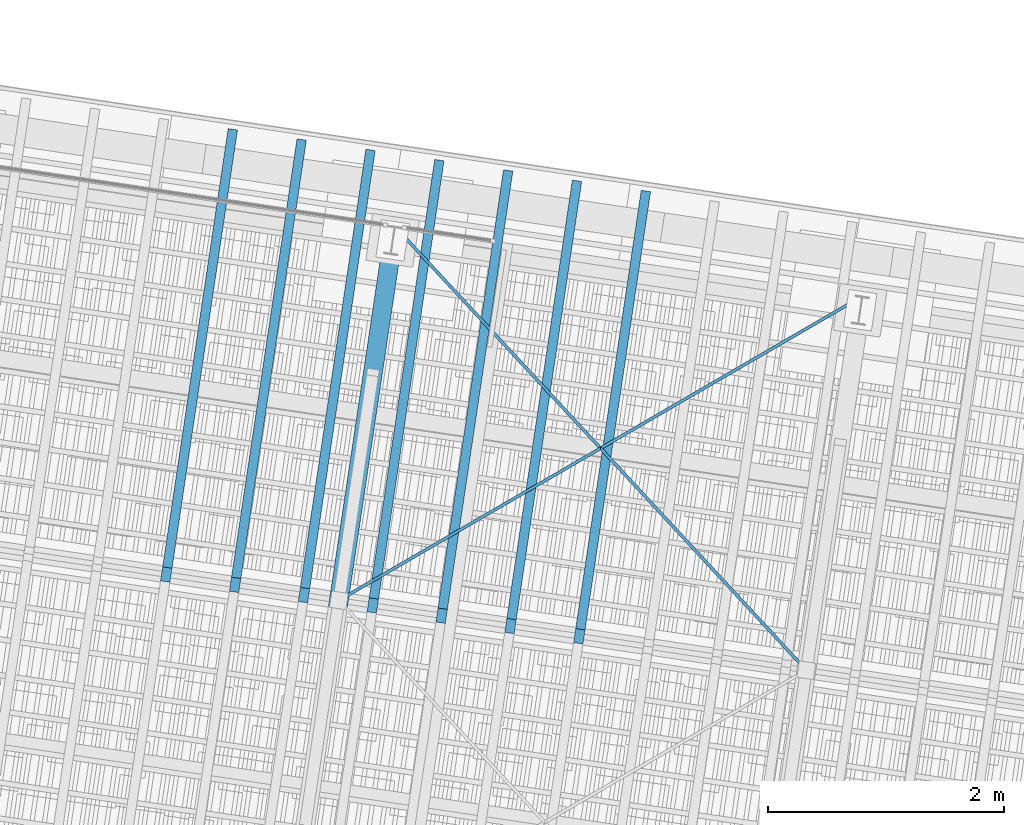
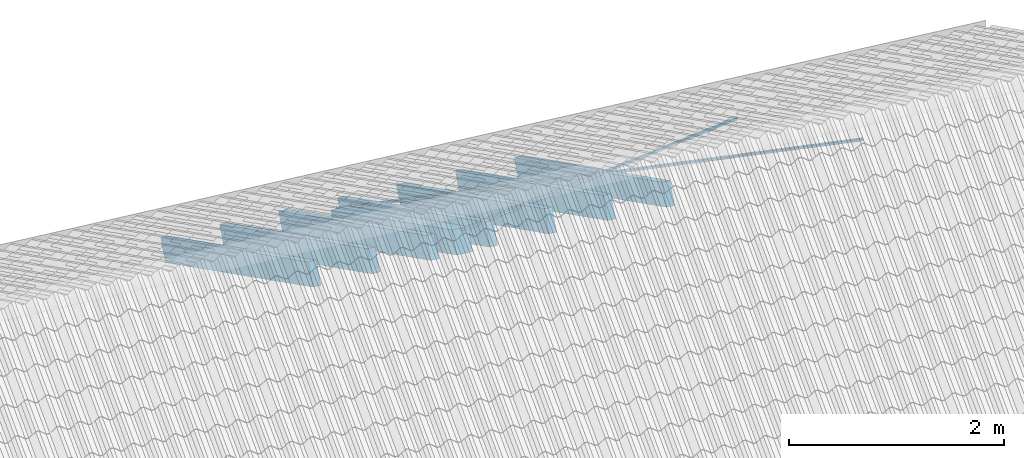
# One storey, part 92 of 128: 10 members, 1 element without a shape of its own.
"""IFC4 building model written with IfcOpenShell, lengths in metres."""

from ifc_helpers import new_model, si_unit, direction, frame, origin_with_axes, place, context, subcontext, project, spatial, rectangle, extrude, material, material_profile, profile_set, profile_usage, type_object, element, aggregate, save


model = new_model("IFC4")

# Units and contexts
model_context = context("Model", 3, precision=1e-05, world=origin_with_axes(), true_north=direction((0.0, 1.0)))
body_context = subcontext(model_context, "Body", "Model", "MODEL_VIEW")
ifc_project = project(units=[si_unit("VOLUMEUNIT", "CUBIC_METRE"), si_unit("LENGTHUNIT", "METRE"), si_unit("AREAUNIT", "SQUARE_METRE")], contexts=[model_context])

# Site, building, storey
site_placement = place(None, origin_with_axes())
site = spatial("IfcSite", under=ifc_project, at=site_placement, Name="Lares · Rua das Mercês · artigo 4771")
building_placement = place(site_placement, frame((15.0, 9.7, 13.9), z_axis=(0.0, 0.0, 1.0), x_axis=(0.989015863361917, -0.147809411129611, 0.0)))
building = spatial("IfcBuilding", under=site, at=building_placement, Name="Casa Sobreposta")
storey_placement = place(building_placement, origin_with_axes())
storey = spatial("IfcBuildingStorey", under=building, at=storey_placement, Name="00 · Habitação e estacionamento", Elevation=13.9)

# Roof, members
ifc_material_1 = material(Name="Madeira / Bauholz", Category="wood")
roof_placement = place(storey_placement, origin_with_axes())
roof = element("IfcRoof", 1, at=roof_placement, inside=storey, material=ifc_material_1, Name="Cobertura de telha · duas águas 30 graus", PredefinedType="GABLE_ROOF")
ifc_material_profile_1 = material_profile(ifc_material_1, rectangle(XDim=0.16, YDim=0.24))
ifc_profile_set_1 = profile_set([ifc_material_profile_1], Name="TIMBER0.160x0.240")
ifc_profile_usage_1 = profile_usage(ifc_profile_set_1)
member_type_1 = type_object("IfcMemberType", Name="TIMBER0.160x0.240 / timber", PredefinedType="NOTDEFINED", material=ifc_profile_set_1)
member_1_placement = place(roof_placement, frame((24.0, 3.2, 5.0225208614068), z_axis=(0.0, 0.866025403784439, -0.5), x_axis=(1.0, 0.0, 0.0)))
member_1 = element("IfcMember", 2, at=member_1_placement, type_object=member_type_1, material=ifc_profile_usage_1, Name="Tesoura · perna", context=body_context, shape_type="SweptSolid", body=[
    extrude(rectangle(XDim=0.16, YDim=0.24), origin_with_axes(), (0.0, 0.0, 1.0), 3.5564776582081),
])
ifc_material_profile_2 = material_profile(ifc_material_1, rectangle(XDim=0.08, YDim=0.24))
ifc_profile_set_2 = profile_set([ifc_material_profile_2], Name="TIMBER0.080x0.240")
ifc_profile_usage_2 = profile_usage(ifc_profile_set_2)
member_type_2 = type_object("IfcMemberType", Name="TIMBER0.080x0.240 / timber", PredefinedType="NOTDEFINED", material=ifc_profile_set_2)
member_2_placement = place(roof_placement, frame((22.5232075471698, 3.2, 5.0285208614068), z_axis=(0.0, 0.866025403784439, -0.5), x_axis=(1.0, 0.0, 0.0)))
member_2 = element("IfcMember", 3, at=member_2_placement, type_object=member_type_2, material=ifc_profile_usage_2, Name="Cobertura · caibro", context=body_context, shape_type="SweptSolid", body=[
    extrude(rectangle(XDim=0.08, YDim=0.24), origin_with_axes(), (0.0, 0.0, 1.0), 4.33012701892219),
])
ifc_profile_usage_3 = profile_usage(ifc_profile_set_2)
member_3_placement = place(roof_placement, frame((23.1122641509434, 3.2, 5.0285208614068), z_axis=(0.0, 0.866025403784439, -0.5), x_axis=(1.0, 0.0, 0.0)))
member_3 = element("IfcMember", 4, at=member_3_placement, type_object=member_type_2, material=ifc_profile_usage_3, Name="Cobertura · caibro", context=body_context, shape_type="SweptSolid", body=[
    extrude(rectangle(XDim=0.08, YDim=0.24), origin_with_axes(), (0.0, 0.0, 1.0), 4.33012701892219),
])
ifc_profile_usage_4 = profile_usage(ifc_profile_set_2)
member_4_placement = place(roof_placement, frame((23.701320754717, 3.2, 5.0285208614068), z_axis=(0.0, 0.866025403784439, -0.5), x_axis=(1.0, 0.0, 0.0)))
member_4 = element("IfcMember", 5, at=member_4_placement, type_object=member_type_2, material=ifc_profile_usage_4, Name="Cobertura · caibro", context=body_context, shape_type="SweptSolid", body=[
    extrude(rectangle(XDim=0.08, YDim=0.24), origin_with_axes(), (0.0, 0.0, 1.0), 4.33012701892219),
])
ifc_profile_usage_5 = profile_usage(ifc_profile_set_2)
member_5_placement = place(roof_placement, frame((24.2903773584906, 3.2, 5.0285208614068), z_axis=(0.0, 0.866025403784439, -0.5), x_axis=(1.0, 0.0, 0.0)))
member_5 = element("IfcMember", 6, at=member_5_placement, type_object=member_type_2, material=ifc_profile_usage_5, Name="Cobertura · caibro", context=body_context, shape_type="SweptSolid", body=[
    extrude(rectangle(XDim=0.08, YDim=0.24), origin_with_axes(), (0.0, 0.0, 1.0), 4.33012701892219),
])
ifc_profile_usage_6 = profile_usage(ifc_profile_set_2)
member_6_placement = place(roof_placement, frame((24.8794339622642, 3.2, 5.0285208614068), z_axis=(0.0, 0.866025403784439, -0.5), x_axis=(1.0, 0.0, 0.0)))
member_6 = element("IfcMember", 7, at=member_6_placement, type_object=member_type_2, material=ifc_profile_usage_6, Name="Cobertura · caibro", context=body_context, shape_type="SweptSolid", body=[
    extrude(rectangle(XDim=0.08, YDim=0.24), origin_with_axes(), (0.0, 0.0, 1.0), 4.33012701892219),
])
ifc_profile_usage_7 = profile_usage(ifc_profile_set_2)
member_7_placement = place(roof_placement, frame((25.4684905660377, 3.2, 5.0285208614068), z_axis=(0.0, 0.866025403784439, -0.5), x_axis=(1.0, 0.0, 0.0)))
member_7 = element("IfcMember", 8, at=member_7_placement, type_object=member_type_2, material=ifc_profile_usage_7, Name="Cobertura · caibro", context=body_context, shape_type="SweptSolid", body=[
    extrude(rectangle(XDim=0.08, YDim=0.24), origin_with_axes(), (0.0, 0.0, 1.0), 4.33012701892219),
])
ifc_profile_usage_8 = profile_usage(ifc_profile_set_2)
member_8_placement = place(roof_placement, frame((26.0575471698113, 3.2, 5.0285208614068), z_axis=(0.0, 0.866025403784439, -0.5), x_axis=(1.0, 0.0, 0.0)))
member_8 = element("IfcMember", 9, at=member_8_placement, type_object=member_type_2, material=ifc_profile_usage_8, Name="Cobertura · caibro", context=body_context, shape_type="SweptSolid", body=[
    extrude(rectangle(XDim=0.08, YDim=0.24), origin_with_axes(), (0.0, 0.0, 1.0), 4.33012701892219),
])
ifc_material_2 = material(Name="Aço galvanizado / Stahl verzinkt", Category="steel")
ifc_material_profile_3 = material_profile(ifc_material_2, rectangle(XDim=0.025, YDim=0.025))
ifc_profile_set_3 = profile_set([ifc_material_profile_3], Name="R0.025")
ifc_profile_usage_9 = profile_usage(ifc_profile_set_3)
member_type_3 = type_object("IfcMemberType", Name="R0.025 / galvanized", PredefinedType="NOTDEFINED", material=ifc_profile_set_3)
member_9_placement = place(roof_placement, frame((24.0, 3.2, 5.1495208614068), z_axis=(0.734553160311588, 0.58764252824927, -0.339275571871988), x_axis=(0.624695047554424, -0.78086880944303, 0.0)))
member_9 = element("IfcMember", 10, at=member_9_placement, type_object=member_type_3, material=ifc_profile_usage_9, Name="Cobertura · fita de contraventamento", context=body_context, shape_type="SweptSolid", body=[
    extrude(rectangle(XDim=0.025, YDim=0.025), origin_with_axes(), (0.0, 0.0, 1.0), 5.44548742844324),
])
ifc_profile_usage_10 = profile_usage(ifc_profile_set_3)
member_10_placement = place(roof_placement, frame((24.0, 6.4, 3.302), z_axis=(0.734553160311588, -0.58764252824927, 0.339275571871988), x_axis=(-0.624695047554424, -0.78086880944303, 0.0)))
member_10 = element("IfcMember", 11, at=member_10_placement, type_object=member_type_3, material=ifc_profile_usage_10, Name="Cobertura · fita de contraventamento", context=body_context, shape_type="SweptSolid", body=[
    extrude(rectangle(XDim=0.025, YDim=0.025), origin_with_axes(), (0.0, 0.0, 1.0), 5.44548742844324),
])
aggregate(roof, [member_1, member_2, member_3, member_4, member_5, member_6, member_7, member_8, member_9, member_10])

save(model, "model.ifc")
